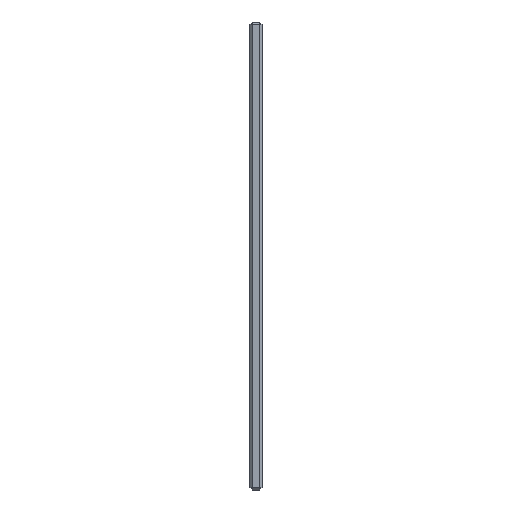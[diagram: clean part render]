
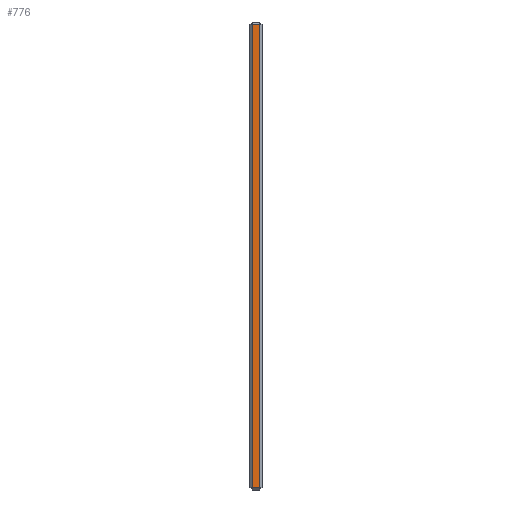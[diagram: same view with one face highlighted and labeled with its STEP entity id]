
A CAD part, left-side view. The second image highlights one B-rep face of the part: STEP entity #776.
In plain terms, the highlighted planar face has unit normal (-1, 0, 0).
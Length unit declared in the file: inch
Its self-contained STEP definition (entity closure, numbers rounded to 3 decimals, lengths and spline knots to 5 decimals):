
#18 = EDGE_CURVE ( 'NONE', #226, #1715, #27, .T. ) ;
#27 = LINE ( 'NONE', #275, #803 ) ;
#226 = VERTEX_POINT ( 'NONE', #1323 ) ;
#275 = CARTESIAN_POINT ( 'NONE',  ( -7.9375, 0.25, -4.825 ) ) ;
#391 = FACE_OUTER_BOUND ( 'NONE', #1671, .T. ) ;
#442 = VECTOR ( 'NONE', #799, 39.37008 ) ;
#449 = ORIENTED_EDGE ( 'NONE', *, *, #961, .T. ) ;
#478 = CARTESIAN_POINT ( 'NONE',  ( -7.9375, 0.25, 4.825 ) ) ;
#514 = ORIENTED_EDGE ( 'NONE', *, *, #521, .T. ) ;
#521 = EDGE_CURVE ( 'NONE', #907, #999, #1091, .T. ) ;
#526 = PLANE ( 'NONE',  #873 ) ;
#528 = LINE ( 'NONE', #1142, #838 ) ;
#598 = CARTESIAN_POINT ( 'NONE',  ( -7.9375, 0.05, -4.825 ) ) ;
#776 = ADVANCED_FACE ( 'Placement Plane', ( #391 ), #526, .F. ) ;
#799 = DIRECTION ( 'NONE',  ( 0., 0., -1. ) ) ;
#803 = VECTOR ( 'NONE', #1615, 39.37008 ) ;
#832 = DIRECTION ( 'NONE',  ( 1., 0., 0. ) ) ;
#838 = VECTOR ( 'NONE', #1571, 39.37008 ) ;
#855 = CARTESIAN_POINT ( 'NONE',  ( -7.9375, 0.05, 4.825 ) ) ;
#873 = AXIS2_PLACEMENT_3D ( 'NONE', #1735, #832, #1653 ) ;
#893 = CARTESIAN_POINT ( 'NONE',  ( -7.9375, 0.2, 4.825 ) ) ;
#907 = VERTEX_POINT ( 'NONE', #855 ) ;
#928 = ORIENTED_EDGE ( 'NONE', *, *, #1263, .T. ) ;
#961 = EDGE_CURVE ( 'NONE', #1715, #907, #528, .T. ) ;
#999 = VERTEX_POINT ( 'NONE', #893 ) ;
#1091 = LINE ( 'NONE', #478, #1268 ) ;
#1142 = CARTESIAN_POINT ( 'NONE',  ( -7.9375, 0.05, -4.875 ) ) ;
#1263 = EDGE_CURVE ( 'NONE', #999, #226, #1532, .T. ) ;
#1268 = VECTOR ( 'NONE', #1404, 39.37008 ) ;
#1323 = CARTESIAN_POINT ( 'NONE',  ( -7.9375, 0.2, -4.825 ) ) ;
#1404 = DIRECTION ( 'NONE',  ( 0., 1., 0. ) ) ;
#1446 = ORIENTED_EDGE ( 'NONE', *, *, #18, .T. ) ;
#1475 = CARTESIAN_POINT ( 'NONE',  ( -7.9375, 0.2, -4.875 ) ) ;
#1532 = LINE ( 'NONE', #1475, #442 ) ;
#1571 = DIRECTION ( 'NONE',  ( 0., 0., 1. ) ) ;
#1615 = DIRECTION ( 'NONE',  ( 0., -1., 0. ) ) ;
#1653 = DIRECTION ( 'NONE',  ( 0., 0., -1. ) ) ;
#1671 = EDGE_LOOP ( 'NONE', ( #928, #1446, #449, #514 ) ) ;
#1715 = VERTEX_POINT ( 'NONE', #598 ) ;
#1735 = CARTESIAN_POINT ( 'NONE',  ( -7.9375, 0.25, -4.875 ) ) ;
